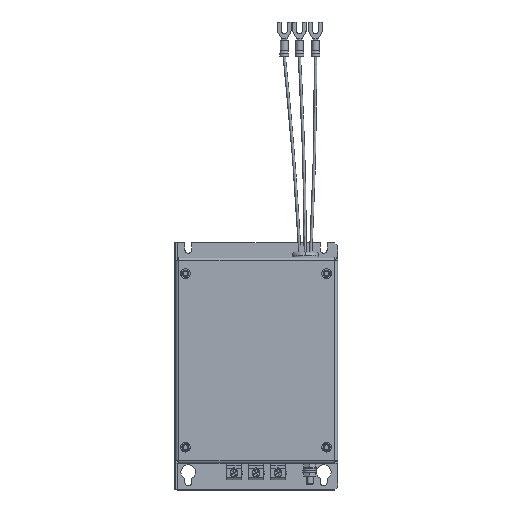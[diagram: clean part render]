
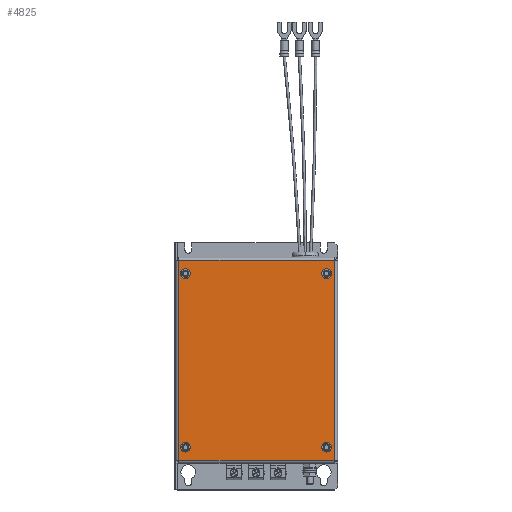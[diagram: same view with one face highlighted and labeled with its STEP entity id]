
A CAD part, top view. The second image highlights one B-rep face of the part: STEP entity #4825.
In plain terms, the highlighted planar face has unit normal (0, 0, 1) as drawn and (0, 1, 0) by its records, which use the part's own axes.
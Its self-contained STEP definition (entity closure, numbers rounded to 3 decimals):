
#24 = CARTESIAN_POINT ( 'NONE',  ( -108., 1., -138. ) ) ;
#246 = CARTESIAN_POINT ( 'NONE',  ( -106.475, 1., -129. ) ) ;
#1298 = AXIS2_PLACEMENT_3D ( 'NONE', #14677, #10482, #24364 ) ;
#1770 = EDGE_CURVE ( 'NONE', #22735, #12267, #24220, .T. ) ;
#2342 = DIRECTION ( 'NONE',  ( -1., 0., 0. ) ) ;
#2480 = CARTESIAN_POINT ( 'NONE',  ( -103.5, 1., -129. ) ) ;
#2536 = CARTESIAN_POINT ( 'NONE',  ( -2., 1., -36. ) ) ;
#3106 = CIRCLE ( 'NONE', #21194, 2.975 ) ;
#3213 = CARTESIAN_POINT ( 'NONE',  ( -103.5, 1., -129. ) ) ;
#3658 = EDGE_CURVE ( 'NONE', #13081, #10880, #4184, .T. ) ;
#4181 = ORIENTED_EDGE ( 'NONE', *, *, #3658, .T. ) ;
#4184 = CIRCLE ( 'NONE', #11328, 2.975 ) ;
#4825 = ADVANCED_FACE ( 'NONE', ( #25311, #10489, #20994, #11757, #19622 ), #16361, .T. ) ;
#4826 = DIRECTION ( 'NONE',  ( 0., -1., 0. ) ) ;
#5000 = AXIS2_PLACEMENT_3D ( 'NONE', #27966, #28414, #12450 ) ;
#5032 = DIRECTION ( 'NONE',  ( 0., 1., 0. ) ) ;
#5284 = CARTESIAN_POINT ( 'NONE',  ( -100.525, 1., -129. ) ) ;
#5317 = DIRECTION ( 'NONE',  ( 0., 0., 1. ) ) ;
#5369 = VECTOR ( 'NONE', #22282, 1000. ) ;
#6234 = VECTOR ( 'NONE', #14011, 1000. ) ;
#6987 = CIRCLE ( 'NONE', #1298, 2.975 ) ;
#7051 = DIRECTION ( 'NONE',  ( 1., 0., 0. ) ) ;
#7416 = CARTESIAN_POINT ( 'NONE',  ( -4.525, 1., -11. ) ) ;
#7760 = AXIS2_PLACEMENT_3D ( 'NONE', #2480, #12172, #22891 ) ;
#8365 = DIRECTION ( 'NONE',  ( 1., 0., 0. ) ) ;
#9238 = EDGE_LOOP ( 'NONE', ( #4181, #21882 ) ) ;
#9454 = ORIENTED_EDGE ( 'NONE', *, *, #14144, .T. ) ;
#9502 = CARTESIAN_POINT ( 'NONE',  ( -108., 1., -104. ) ) ;
#9936 = EDGE_LOOP ( 'NONE', ( #21099, #22742 ) ) ;
#10338 = CARTESIAN_POINT ( 'NONE',  ( -7.5, 1., -11. ) ) ;
#10482 = DIRECTION ( 'NONE',  ( 0., -1., 0. ) ) ;
#10489 = FACE_BOUND ( 'NONE', #21569, .T. ) ;
#10683 = CIRCLE ( 'NONE', #22131, 2.975 ) ;
#10743 = ORIENTED_EDGE ( 'NONE', *, *, #16003, .T. ) ;
#10880 = VERTEX_POINT ( 'NONE', #246 ) ;
#11178 = ORIENTED_EDGE ( 'NONE', *, *, #24555, .T. ) ;
#11328 = AXIS2_PLACEMENT_3D ( 'NONE', #3213, #11371, #22559 ) ;
#11371 = DIRECTION ( 'NONE',  ( 0., -1., 0. ) ) ;
#11757 = FACE_BOUND ( 'NONE', #9238, .T. ) ;
#12172 = DIRECTION ( 'NONE',  ( 0., -1., 0. ) ) ;
#12267 = VERTEX_POINT ( 'NONE', #22966 ) ;
#12371 = VERTEX_POINT ( 'NONE', #14177 ) ;
#12450 = DIRECTION ( 'NONE',  ( 1., 0., 0. ) ) ;
#12516 = CIRCLE ( 'NONE', #29166, 2.975 ) ;
#12781 = VERTEX_POINT ( 'NONE', #7416 ) ;
#13081 = VERTEX_POINT ( 'NONE', #5284 ) ;
#13187 = EDGE_CURVE ( 'NONE', #10880, #13081, #16829, .T. ) ;
#13899 = ORIENTED_EDGE ( 'NONE', *, *, #21831, .T. ) ;
#14011 = DIRECTION ( 'NONE',  ( 0., 0., -1. ) ) ;
#14135 = DIRECTION ( 'NONE',  ( 1., 0., 0. ) ) ;
#14136 = LINE ( 'NONE', #9502, #28831 ) ;
#14144 = EDGE_CURVE ( 'NONE', #12371, #24247, #16051, .T. ) ;
#14177 = CARTESIAN_POINT ( 'NONE',  ( -2., 1., -138. ) ) ;
#14303 = EDGE_CURVE ( 'NONE', #23320, #26462, #12516, .T. ) ;
#14619 = CARTESIAN_POINT ( 'NONE',  ( -108., 1., -2. ) ) ;
#14677 = CARTESIAN_POINT ( 'NONE',  ( -103.5, 1., -11. ) ) ;
#14942 = DIRECTION ( 'NONE',  ( 0., -1., 0. ) ) ;
#15101 = CARTESIAN_POINT ( 'NONE',  ( -10.475, 1., -11. ) ) ;
#15367 = VECTOR ( 'NONE', #2342, 1000. ) ;
#16003 = EDGE_CURVE ( 'NONE', #12781, #20813, #10683, .T. ) ;
#16033 = CARTESIAN_POINT ( 'NONE',  ( -7.5, 1., -11. ) ) ;
#16051 = LINE ( 'NONE', #22459, #15367 ) ;
#16361 = PLANE ( 'NONE',  #22937 ) ;
#16722 = EDGE_CURVE ( 'NONE', #20813, #12781, #3106, .T. ) ;
#16829 = CIRCLE ( 'NONE', #7760, 2.975 ) ;
#17160 = CARTESIAN_POINT ( 'NONE',  ( -4.525, 1., -129. ) ) ;
#18242 = CARTESIAN_POINT ( 'NONE',  ( -82.5, 1., -2. ) ) ;
#19067 = CARTESIAN_POINT ( 'NONE',  ( -10.475, 1., -129. ) ) ;
#19252 = EDGE_LOOP ( 'NONE', ( #24900, #23395, #11178, #9454 ) ) ;
#19604 = DIRECTION ( 'NONE',  ( 1., 0., 0. ) ) ;
#19622 = FACE_OUTER_BOUND ( 'NONE', #19252, .T. ) ;
#19829 = EDGE_CURVE ( 'NONE', #24247, #26018, #14136, .T. ) ;
#20209 = DIRECTION ( 'NONE',  ( 0., -1., 0. ) ) ;
#20813 = VERTEX_POINT ( 'NONE', #15101 ) ;
#20994 = FACE_BOUND ( 'NONE', #9936, .T. ) ;
#21099 = ORIENTED_EDGE ( 'NONE', *, *, #14303, .T. ) ;
#21194 = AXIS2_PLACEMENT_3D ( 'NONE', #10338, #24068, #19604 ) ;
#21490 = CARTESIAN_POINT ( 'NONE',  ( -2., 1., -2. ) ) ;
#21569 = EDGE_LOOP ( 'NONE', ( #13899, #29388 ) ) ;
#21831 = EDGE_CURVE ( 'NONE', #12267, #22735, #6987, .T. ) ;
#21882 = ORIENTED_EDGE ( 'NONE', *, *, #13187, .T. ) ;
#22052 = EDGE_CURVE ( 'NONE', #26018, #23215, #29265, .T. ) ;
#22131 = AXIS2_PLACEMENT_3D ( 'NONE', #16033, #4826, #25129 ) ;
#22282 = DIRECTION ( 'NONE',  ( 1., 0., 0. ) ) ;
#22459 = CARTESIAN_POINT ( 'NONE',  ( -28.5, 1., -138. ) ) ;
#22559 = DIRECTION ( 'NONE',  ( 1., 0., 0. ) ) ;
#22735 = VERTEX_POINT ( 'NONE', #28073 ) ;
#22742 = ORIENTED_EDGE ( 'NONE', *, *, #28459, .T. ) ;
#22891 = DIRECTION ( 'NONE',  ( 1., 0., 0. ) ) ;
#22937 = AXIS2_PLACEMENT_3D ( 'NONE', #25467, #5032, #14135 ) ;
#22944 = LINE ( 'NONE', #2536, #6234 ) ;
#22966 = CARTESIAN_POINT ( 'NONE',  ( -100.525, 1., -11. ) ) ;
#23215 = VERTEX_POINT ( 'NONE', #21490 ) ;
#23320 = VERTEX_POINT ( 'NONE', #17160 ) ;
#23395 = ORIENTED_EDGE ( 'NONE', *, *, #22052, .T. ) ;
#23595 = CIRCLE ( 'NONE', #5000, 2.975 ) ;
#24068 = DIRECTION ( 'NONE',  ( 0., -1., 0. ) ) ;
#24191 = CARTESIAN_POINT ( 'NONE',  ( -103.5, 1., -11. ) ) ;
#24220 = CIRCLE ( 'NONE', #25147, 2.975 ) ;
#24247 = VERTEX_POINT ( 'NONE', #24 ) ;
#24364 = DIRECTION ( 'NONE',  ( 1., 0., 0. ) ) ;
#24555 = EDGE_CURVE ( 'NONE', #23215, #12371, #22944, .T. ) ;
#24900 = ORIENTED_EDGE ( 'NONE', *, *, #19829, .T. ) ;
#25129 = DIRECTION ( 'NONE',  ( 1., 0., 0. ) ) ;
#25147 = AXIS2_PLACEMENT_3D ( 'NONE', #24191, #14942, #8365 ) ;
#25311 = FACE_BOUND ( 'NONE', #26923, .T. ) ;
#25467 = CARTESIAN_POINT ( 'NONE',  ( -55., 1., -70. ) ) ;
#26018 = VERTEX_POINT ( 'NONE', #14619 ) ;
#26462 = VERTEX_POINT ( 'NONE', #19067 ) ;
#26923 = EDGE_LOOP ( 'NONE', ( #10743, #28490 ) ) ;
#27482 = CARTESIAN_POINT ( 'NONE',  ( -7.5, 1., -129. ) ) ;
#27966 = CARTESIAN_POINT ( 'NONE',  ( -7.5, 1., -129. ) ) ;
#28073 = CARTESIAN_POINT ( 'NONE',  ( -106.475, 1., -11. ) ) ;
#28414 = DIRECTION ( 'NONE',  ( 0., -1., 0. ) ) ;
#28459 = EDGE_CURVE ( 'NONE', #26462, #23320, #23595, .T. ) ;
#28490 = ORIENTED_EDGE ( 'NONE', *, *, #16722, .T. ) ;
#28831 = VECTOR ( 'NONE', #5317, 1000. ) ;
#29166 = AXIS2_PLACEMENT_3D ( 'NONE', #27482, #20209, #7051 ) ;
#29265 = LINE ( 'NONE', #18242, #5369 ) ;
#29388 = ORIENTED_EDGE ( 'NONE', *, *, #1770, .T. ) ;
